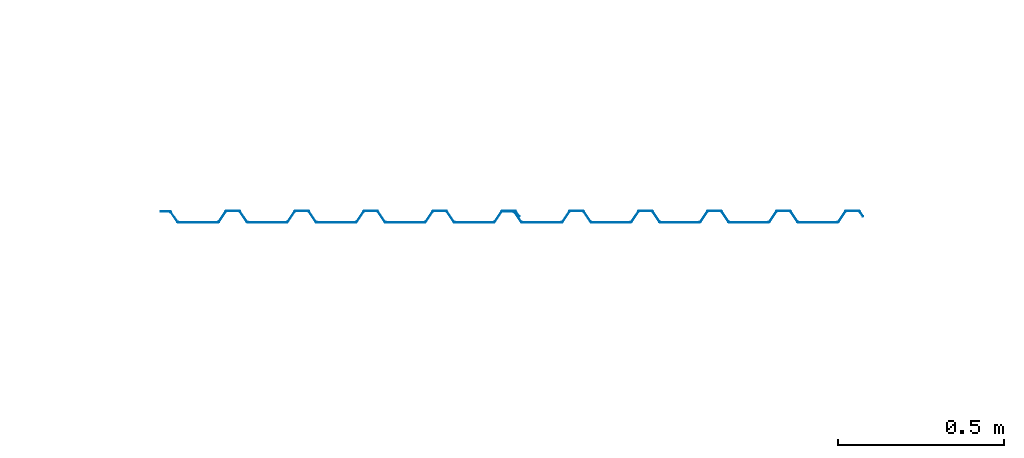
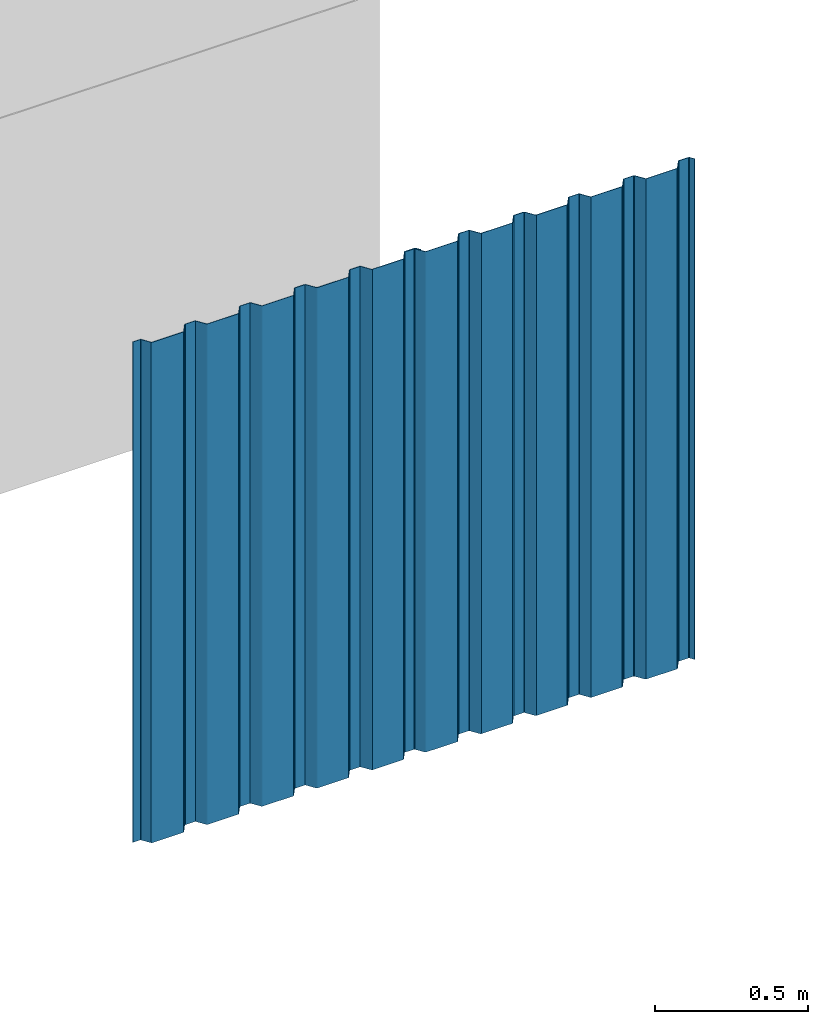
# One storey, part 2 of 11: 1 wall.
"""IFC2X3 building model written with IfcOpenShell, lengths in millimetres."""

from ifc_helpers import new_model, entity, si_unit, converted_unit, derived_unit, direction, frame, frame_2d, origin, place, context, subcontext, project, spatial, polyline, circle_curve, parameter, trimmed, segment, composite_curve, outline, extrude, type_object, element, save


model = new_model("IFC2X3")

# Units and contexts
model_context = context("Model", 3, precision=0.01, world=origin(), true_north=direction((6.12303176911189e-17, 1.0)))
body_context = subcontext(model_context, "Body", "Model", "MODEL_VIEW")
ifc_project = project(units=[si_unit("LENGTHUNIT", "METRE", prefix="MILLI"), si_unit("AREAUNIT", "SQUARE_METRE"), si_unit("VOLUMEUNIT", "CUBIC_METRE"), converted_unit("PLANEANGLEUNIT", "DEGREE", entity("IfcRatioMeasure", 0.0174532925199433), si_unit("PLANEANGLEUNIT", "RADIAN"), dimensions=[0, 0, 0, 0, 0, 0, 0]), si_unit("MASSUNIT", "GRAM", prefix="KILO"), si_unit("TIMEUNIT", "SECOND"), si_unit("FREQUENCYUNIT", "HERTZ"), si_unit("THERMODYNAMICTEMPERATUREUNIT", "KELVIN"), derived_unit("THERMALTRANSMITTANCEUNIT", [(si_unit("MASSUNIT", "GRAM", prefix="KILO"), 1), (si_unit("THERMODYNAMICTEMPERATUREUNIT", "KELVIN"), -1), (si_unit("TIMEUNIT", "SECOND"), -3)]), derived_unit("VOLUMETRICFLOWRATEUNIT", [(si_unit("LENGTHUNIT", "METRE"), 3), (si_unit("TIMEUNIT", "SECOND"), -1)]), si_unit("ELECTRICCURRENTUNIT", "AMPERE"), si_unit("ELECTRICVOLTAGEUNIT", "VOLT"), si_unit("POWERUNIT", "WATT")], contexts=[model_context])

# Site, building, storey
site_placement = place(None, origin())
site = spatial("IfcSite", under=ifc_project, at=site_placement, Name="Surface:5707", CompositionType="ELEMENT")
building_placement = place(site_placement, origin())
building = spatial("IfcBuilding", under=site, at=building_placement, CompositionType="ELEMENT")
storey_placement = place(building_placement, origin())
storey = spatial("IfcBuildingStorey", under=building, at=storey_placement, Name="00_begane grond", CompositionType="ELEMENT", Elevation=0.0)

# Wall
wall_type = type_object("IfcWallType", Name="Curtain Wall:21_CW_gevelbeplating_SAB35_1035:21_CW_gevelbeplating_SAB35_1035 : Curtain Wall:21_CW_gevelbeplating_SAB35_1035", PredefinedType="NOTDEFINED")
wall_placement = place(storey_placement, frame((11948.1162190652, -15000.1321325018, 0.0)))
element("IfcWall", 1, at=wall_placement, inside=storey, type_object=wall_type, Name="Curtain Wall:21_CW_gevelbeplating_SAB35_1035:21_CW_gevelbeplating_SAB35_1035 : Curtain Wall:21_CW_gevelbeplating_SAB35_1035:5924", ObjectType="Curtain Wall:21_CW_gevelbeplating_SAB35_1035:Curtain Wall:21_CW_gevelbeplating_SAB35_1035:5922", context=body_context, shape_type="SweptSolid", body=[
    extrude(outline(composite_curve([segment(trimmed(circle_curve(frame_2d((-498.845459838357, -13.5647563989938), x_axis=(1.0, 0.0)), 6.02142689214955), [parameter(214.438989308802)], [parameter(269.999999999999)], True, "PARAMETER"), True, "CONTINUOUS"), segment(polyline([(-498.845459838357, -19.5861832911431), (-383.335931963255, -19.5861832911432)]), True, "CONTINUOUS"), segment(trimmed(circle_curve(frame_2d((-383.335931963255, -13.5647563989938), x_axis=(1.0, 0.0)), 6.02142689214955), [parameter(269.999999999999)], [parameter(325.561010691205)], True, "PARAMETER"), True, "CONTINUOUS"), segment(polyline([(-378.369887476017, -16.9700440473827), (-357.27405332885, 13.7947140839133)]), True, "CONTINUOUS"), segment(trimmed(circle_curve(frame_2d((-353.963357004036, 11.5245223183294), x_axis=(1.0, 0.0)), 4.01428459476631), [parameter(90.0)], [parameter(145.561010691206)], True, "PARAMETER"), False, "CONTINUOUS"), segment(polyline([(-353.963357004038, 15.5388069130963), (-319.107378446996, 15.538806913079)]), True, "CONTINUOUS"), segment(trimmed(circle_curve(frame_2d((-319.107378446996, 11.5245223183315), x_axis=(1.0, 0.0)), 4.01428459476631), [parameter(34.4389893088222)], [parameter(90.0000000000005)], True, "PARAMETER"), False, "CONTINUOUS"), segment(polyline([(-315.796682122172, 13.7947140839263), (-294.700847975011, -16.970044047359)]), True, "CONTINUOUS"), segment(trimmed(circle_curve(frame_2d((-289.734803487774, -13.5647563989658), x_axis=(1.0, 0.0)), 6.02142689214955), [parameter(214.438989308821)], [parameter(270.0)], True, "PARAMETER"), True, "CONTINUOUS"), segment(polyline([(-289.734803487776, -19.5861832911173), (-175.596704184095, -19.5861832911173)]), True, "CONTINUOUS"), segment(trimmed(circle_curve(frame_2d((-175.596704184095, -13.5647563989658), x_axis=(1.0, 0.0)), 6.02142689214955), [parameter(270.0)], [parameter(325.5610106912)], True, "PARAMETER"), True, "CONTINUOUS"), segment(polyline([(-170.630659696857, -16.9700440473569), (-149.534825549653, 13.794714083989)]), True, "CONTINUOUS"), segment(trimmed(circle_curve(frame_2d((-146.224129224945, 11.5245223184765), x_axis=(1.0, 0.0)), 4.01428459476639), [parameter(90.0000000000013)], [parameter(145.561010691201)], True, "PARAMETER"), False, "CONTINUOUS"), segment(polyline([(-146.224129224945, 15.5388069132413), (-111.368150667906, 15.5388069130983)]), True, "CONTINUOUS"), segment(trimmed(circle_curve(frame_2d((-111.368150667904, 11.5245223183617), x_axis=(1.0, 0.0)), 4.01428459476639), [parameter(34.4389893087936)], [parameter(90.0000000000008)], True, "PARAMETER"), False, "CONTINUOUS"), segment(polyline([(-108.057454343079, 13.7947140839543), (-86.9616201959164, -16.9700440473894)]), True, "CONTINUOUS"), segment(trimmed(circle_curve(frame_2d((-81.9955757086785, -13.5647563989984), x_axis=(1.0, 0.0)), 6.02142689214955), [parameter(214.438989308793)], [parameter(270.0)], True, "PARAMETER"), True, "CONTINUOUS"), segment(polyline([(-81.9955757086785, -19.5861832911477), (32.142523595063, -19.5861832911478)]), True, "CONTINUOUS"), segment(trimmed(circle_curve(frame_2d((32.142523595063, -13.5647563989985), x_axis=(1.0, 0.0)), 6.02142689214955), [parameter(270.0)], [parameter(325.561010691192)], True, "PARAMETER"), True, "CONTINUOUS"), segment(polyline([(37.1085680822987, -16.9700440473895), (58.2044022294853, 13.7947140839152)]), True, "CONTINUOUS"), segment(trimmed(circle_curve(frame_2d((61.5150985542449, 11.5245223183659), x_axis=(1.0, 0.0)), 4.01428459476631), [parameter(90.0000000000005)], [parameter(145.561010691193)], True, "PARAMETER"), False, "CONTINUOUS"), segment(polyline([(61.5150985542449, 15.5388069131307), (96.3710771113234, 15.5388069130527)]), True, "CONTINUOUS"), segment(trimmed(circle_curve(frame_2d((96.3710771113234, 11.5245223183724), x_axis=(1.0, 0.0)), 4.01428459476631), [parameter(34.4389893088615)], [parameter(90.0000000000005)], True, "PARAMETER"), False, "CONTINUOUS"), segment(polyline([(99.6817734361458, 13.7947140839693), (120.777607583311, -16.9700440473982)]), True, "CONTINUOUS"), segment(trimmed(circle_curve(frame_2d((125.743652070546, -13.5647563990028), x_axis=(1.0, 0.0)), 6.02142689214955), [parameter(214.438989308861)], [parameter(270.0)], True, "PARAMETER"), True, "CONTINUOUS"), segment(polyline([(125.743652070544, -19.5861832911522), (239.881751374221, -19.5861832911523)]), True, "CONTINUOUS"), segment(trimmed(circle_curve(frame_2d((239.881751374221, -13.5647563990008), x_axis=(1.0, 0.0)), 6.02142689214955), [parameter(270.0)], [parameter(325.561010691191)], True, "PARAMETER"), True, "CONTINUOUS"), segment(polyline([(244.847795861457, -16.9700440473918), (265.943630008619, 13.7947140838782)]), True, "CONTINUOUS"), segment(trimmed(circle_curve(frame_2d((269.254326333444, 11.5245223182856), x_axis=(1.0, 0.0)), 4.01428459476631), [parameter(90.0)], [parameter(145.561010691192)], True, "PARAMETER"), False, "CONTINUOUS"), segment(polyline([(269.254326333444, 15.5388069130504), (304.110304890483, 15.5388069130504)]), True, "CONTINUOUS"), segment(trimmed(circle_curve(frame_2d((304.110304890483, 11.5245223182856), x_axis=(1.0, 0.0)), 4.01428459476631), [parameter(34.4389893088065)], [parameter(90.0)], True, "PARAMETER"), False, "CONTINUOUS"), segment(polyline([(307.421001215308, 13.7947140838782), (328.516835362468, -16.970044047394)]), True, "CONTINUOUS"), segment(trimmed(circle_curve(frame_2d((333.482879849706, -13.564756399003), x_axis=(1.0, 0.0)), 6.02142689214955), [parameter(214.438989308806)], [parameter(269.999999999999)], True, "PARAMETER"), True, "CONTINUOUS"), segment(polyline([(333.482879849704, -19.5861832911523), (447.620979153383, -19.5861832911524)]), True, "CONTINUOUS"), segment(trimmed(circle_curve(frame_2d((447.620979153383, -13.5647563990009), x_axis=(1.0, 0.0)), 6.02142689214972), [parameter(269.999999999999)], [parameter(325.561010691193)], True, "PARAMETER"), True, "CONTINUOUS"), segment(polyline([(452.587023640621, -16.970044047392), (473.682857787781, 13.7947140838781)]), True, "CONTINUOUS"), segment(trimmed(circle_curve(frame_2d((476.993554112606, 11.5245223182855), x_axis=(1.0, 0.0)), 4.01428459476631), [parameter(90.000000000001)], [parameter(145.561010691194)], True, "PARAMETER"), False, "CONTINUOUS"), segment(polyline([(476.993554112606, 15.5388069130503), (511.849532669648, 15.5388069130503)]), True, "CONTINUOUS"), segment(trimmed(circle_curve(frame_2d((511.849532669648, 11.5245223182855), x_axis=(1.0, 0.0)), 4.01428459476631), [parameter(34.4389893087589)], [parameter(90.0)], True, "PARAMETER"), False, "CONTINUOUS"), segment(polyline([(515.160228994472, 13.7947140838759), (525.449096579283, -1.20988447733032)]), True, "CONTINUOUS"), segment(polyline([(525.449096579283, -1.20988447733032), (527.104444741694, -0.0747885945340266)]), True, "CONTINUOUS"), segment(polyline([(527.104444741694, -0.0747885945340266), (516.815577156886, 14.9298099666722)]), True, "CONTINUOUS"), segment(trimmed(circle_curve(frame_2d((511.849532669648, 11.5245223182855), x_axis=(1.0, 0.0)), 6.02142689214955), [parameter(34.4389893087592)], [parameter(90.0)], True, "PARAMETER"), True, "CONTINUOUS"), segment(polyline([(511.849532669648, 17.5459492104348), (476.993554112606, 17.5459492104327)]), True, "CONTINUOUS"), segment(trimmed(circle_curve(frame_2d((476.993554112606, 11.5245223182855), x_axis=(1.0, 0.0)), 6.02142689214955), [parameter(89.9999999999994)], [parameter(145.561010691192)], True, "PARAMETER"), True, "CONTINUOUS"), segment(polyline([(472.02750962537, 14.9298099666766), (450.931675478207, -15.8349481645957)]), True, "CONTINUOUS"), segment(trimmed(circle_curve(frame_2d((447.620979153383, -13.5647563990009), x_axis=(1.0, 0.0)), 4.01428459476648), [parameter(270.0)], [parameter(325.561010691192)], True, "PARAMETER"), False, "CONTINUOUS"), segment(polyline([(447.620979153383, -17.5790409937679), (333.482879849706, -17.5790409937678)]), True, "CONTINUOUS"), segment(trimmed(circle_curve(frame_2d((333.482879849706, -13.564756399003), x_axis=(1.0, 0.0)), 4.01428459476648), [parameter(214.438989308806)], [parameter(270.0)], True, "PARAMETER"), False, "CONTINUOUS"), segment(polyline([(330.17218352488, -15.8349481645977), (309.076349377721, 14.9298099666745)]), True, "CONTINUOUS"), segment(trimmed(circle_curve(frame_2d((304.110304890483, 11.5245223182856), x_axis=(1.0, 0.0)), 6.02142689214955), [parameter(34.4389893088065)], [parameter(90.0)], True, "PARAMETER"), True, "CONTINUOUS"), segment(polyline([(304.110304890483, 17.5459492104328), (269.254326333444, 17.545949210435)]), True, "CONTINUOUS"), segment(trimmed(circle_curve(frame_2d((269.254326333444, 11.5245223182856), x_axis=(1.0, 0.0)), 6.02142689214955), [parameter(90.0)], [parameter(145.561010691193)], True, "PARAMETER"), True, "CONTINUOUS"), segment(polyline([(264.288281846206, 14.9298099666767), (243.192447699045, -15.8349481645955)]), True, "CONTINUOUS"), segment(trimmed(circle_curve(frame_2d((239.881751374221, -13.5647563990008), x_axis=(1.0, 0.0)), 4.01428459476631), [parameter(270.0)], [parameter(325.561010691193)], True, "PARAMETER"), False, "CONTINUOUS"), segment(polyline([(239.881751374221, -17.5790409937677), (125.743652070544, -17.5790409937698)]), True, "CONTINUOUS"), segment(trimmed(circle_curve(frame_2d((125.743652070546, -13.5647563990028), x_axis=(1.0, 0.0)), 4.01428459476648), [parameter(214.438989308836)], [parameter(270.0)], True, "PARAMETER"), False, "CONTINUOUS"), segment(polyline([(122.432955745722, -15.8349481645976), (101.337121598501, 14.9298099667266)]), True, "CONTINUOUS"), segment(trimmed(circle_curve(frame_2d((96.3710771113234, 11.5245223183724), x_axis=(1.0, 0.0)), 6.02142689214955), [parameter(34.4389893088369)], [parameter(90.0000000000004)], True, "PARAMETER"), True, "CONTINUOUS"), segment(polyline([(96.3710771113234, 17.5459492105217), (61.5150985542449, 17.5459492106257)]), True, "CONTINUOUS"), segment(trimmed(circle_curve(frame_2d((61.5150985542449, 11.5245223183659), x_axis=(1.0, 0.0)), 6.02142689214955), [parameter(89.9999999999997)], [parameter(145.561010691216)], True, "PARAMETER"), True, "CONTINUOUS"), segment(polyline([(56.549054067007, 14.9298099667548), (35.4532199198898, -15.8349481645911)]), True, "CONTINUOUS"), segment(trimmed(circle_curve(frame_2d((32.142523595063, -13.5647563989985), x_axis=(1.0, 0.0)), 4.01428459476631), [parameter(269.999999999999)], [parameter(325.561010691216)], True, "PARAMETER"), False, "CONTINUOUS"), segment(polyline([(32.142523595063, -17.5790409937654), (-81.9955757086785, -17.5790409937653)]), True, "CONTINUOUS"), segment(trimmed(circle_curve(frame_2d((-81.9955757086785, -13.5647563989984), x_axis=(1.0, 0.0)), 4.01428459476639), [parameter(214.438989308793)], [parameter(270.0)], True, "PARAMETER"), False, "CONTINUOUS"), segment(polyline([(-85.306272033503, -15.8349481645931), (-106.402106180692, 14.9298099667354)]), True, "CONTINUOUS"), segment(trimmed(circle_curve(frame_2d((-111.368150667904, 11.5245223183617), x_axis=(1.0, 0.0)), 6.02142689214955), [parameter(34.4389893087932)], [parameter(89.9999999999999)], True, "PARAMETER"), True, "CONTINUOUS"), segment(polyline([(-111.368150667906, 17.545949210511), (-146.224129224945, 17.5459492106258)]), True, "CONTINUOUS"), segment(trimmed(circle_curve(frame_2d((-146.224129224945, 11.5245223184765), x_axis=(1.0, 0.0)), 6.02142689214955), [parameter(90.0000000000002)], [parameter(145.561010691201)], True, "PARAMETER"), True, "CONTINUOUS"), segment(polyline([(-151.190173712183, 14.9298099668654), (-172.28600785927, -15.8349481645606)]), True, "CONTINUOUS"), segment(trimmed(circle_curve(frame_2d((-175.596704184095, -13.5647563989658), x_axis=(1.0, 0.0)), 4.01428459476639), [parameter(269.999999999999)], [parameter(325.5610106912)], True, "PARAMETER"), False, "CONTINUOUS"), segment(polyline([(-175.596704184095, -17.5790409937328), (-289.734803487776, -17.5790409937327)]), True, "CONTINUOUS"), segment(trimmed(circle_curve(frame_2d((-289.734803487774, -13.5647563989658), x_axis=(1.0, 0.0)), 4.01428459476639), [parameter(214.438989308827)], [parameter(269.999999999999)], True, "PARAMETER"), False, "CONTINUOUS"), segment(polyline([(-293.045499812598, -15.8349481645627), (-314.141333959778, 14.9298099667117)]), True, "CONTINUOUS"), segment(trimmed(circle_curve(frame_2d((-319.107378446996, 11.5245223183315), x_axis=(1.0, 0.0)), 6.02142689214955), [parameter(34.4389893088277)], [parameter(90.0)], True, "PARAMETER"), True, "CONTINUOUS"), segment(polyline([(-319.107378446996, 17.5459492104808), (-353.963357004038, 17.5459492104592)]), True, "CONTINUOUS"), segment(trimmed(circle_curve(frame_2d((-353.963357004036, 11.5245223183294), x_axis=(1.0, 0.0)), 6.02142689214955), [parameter(90.0)], [parameter(145.561010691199)], True, "PARAMETER"), True, "CONTINUOUS"), segment(polyline([(-358.929401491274, 14.9298099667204), (-380.02523563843, -15.8349481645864)]), True, "CONTINUOUS"), segment(trimmed(circle_curve(frame_2d((-383.335931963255, -13.5647563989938), x_axis=(1.0, 0.0)), 4.01428459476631), [parameter(270.0)], [parameter(325.561010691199)], True, "PARAMETER"), False, "CONTINUOUS"), segment(polyline([(-383.335931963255, -17.5790409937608), (-498.845459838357, -17.5790409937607)]), True, "CONTINUOUS"), segment(trimmed(circle_curve(frame_2d((-498.845459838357, -13.5647563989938), x_axis=(1.0, 0.0)), 4.01428459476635), [parameter(214.438989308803)], [parameter(270.0)], True, "PARAMETER"), False, "CONTINUOUS"), segment(polyline([(-502.156156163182, -15.8349481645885), (-521.880561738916, 12.9298099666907)]), True, "CONTINUOUS"), segment(trimmed(circle_curve(frame_2d((-526.846606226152, 9.52452231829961), x_axis=(1.0, 0.0)), 6.02142689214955), [parameter(34.438989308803)], [parameter(89.9999999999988)], True, "PARAMETER"), True, "CONTINUOUS"), segment(polyline([(-526.846606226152, 15.545949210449), (-554.310306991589, 15.5459492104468)]), True, "CONTINUOUS"), segment(polyline([(-554.310306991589, 15.5459492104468), (-554.310306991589, 13.5388069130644)]), True, "CONTINUOUS"), segment(polyline([(-554.310306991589, 13.5388069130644), (-526.846606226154, 13.5388069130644)]), True, "CONTINUOUS"), segment(trimmed(circle_curve(frame_2d((-526.846606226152, 9.52452231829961), x_axis=(1.0, 0.0)), 4.01428459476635), [parameter(34.4389893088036)], [parameter(89.9999999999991)], True, "PARAMETER"), False, "CONTINUOUS"), segment(polyline([(-523.535909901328, 11.7947140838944), (-503.811504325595, -16.9700440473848)]), True, "CONTINUOUS")], self_intersect=False)), frame((554.310306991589, 19.5861832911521, 0.0)), (0.0, 0.0, 1.0), 2000.0),
    extrude(outline(composite_curve([segment(trimmed(circle_curve(frame_2d((-498.845459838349, -13.5647563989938), x_axis=(1.0, 0.0)), 6.02142689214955), [parameter(214.438989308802)], [parameter(269.999999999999)], True, "PARAMETER"), True, "CONTINUOUS"), segment(polyline([(-498.845459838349, -19.5861832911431), (-383.335931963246, -19.5861832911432)]), True, "CONTINUOUS"), segment(trimmed(circle_curve(frame_2d((-383.335931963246, -13.5647563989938), x_axis=(1.0, 0.0)), 6.02142689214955), [parameter(269.999999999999)], [parameter(325.561010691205)], True, "PARAMETER"), True, "CONTINUOUS"), segment(polyline([(-378.369887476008, -16.9700440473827), (-357.274053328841, 13.7947140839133)]), True, "CONTINUOUS"), segment(trimmed(circle_curve(frame_2d((-353.963357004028, 11.5245223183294), x_axis=(1.0, 0.0)), 4.01428459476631), [parameter(90.0)], [parameter(145.561010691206)], True, "PARAMETER"), False, "CONTINUOUS"), segment(polyline([(-353.96335700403, 15.5388069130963), (-319.107378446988, 15.538806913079)]), True, "CONTINUOUS"), segment(trimmed(circle_curve(frame_2d((-319.107378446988, 11.5245223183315), x_axis=(1.0, 0.0)), 4.01428459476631), [parameter(34.4389893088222)], [parameter(90.0000000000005)], True, "PARAMETER"), False, "CONTINUOUS"), segment(polyline([(-315.796682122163, 13.7947140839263), (-294.700847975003, -16.970044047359)]), True, "CONTINUOUS"), segment(trimmed(circle_curve(frame_2d((-289.734803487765, -13.5647563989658), x_axis=(1.0, 0.0)), 6.02142689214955), [parameter(214.438989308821)], [parameter(270.0)], True, "PARAMETER"), True, "CONTINUOUS"), segment(polyline([(-289.734803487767, -19.5861832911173), (-175.596704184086, -19.5861832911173)]), True, "CONTINUOUS"), segment(trimmed(circle_curve(frame_2d((-175.596704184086, -13.5647563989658), x_axis=(1.0, 0.0)), 6.02142689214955), [parameter(270.0)], [parameter(325.5610106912)], True, "PARAMETER"), True, "CONTINUOUS"), segment(polyline([(-170.630659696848, -16.9700440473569), (-149.534825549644, 13.794714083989)]), True, "CONTINUOUS"), segment(trimmed(circle_curve(frame_2d((-146.224129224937, 11.5245223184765), x_axis=(1.0, 0.0)), 4.01428459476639), [parameter(90.0000000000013)], [parameter(145.561010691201)], True, "PARAMETER"), False, "CONTINUOUS"), segment(polyline([(-146.224129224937, 15.5388069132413), (-111.368150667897, 15.5388069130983)]), True, "CONTINUOUS"), segment(trimmed(circle_curve(frame_2d((-111.368150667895, 11.5245223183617), x_axis=(1.0, 0.0)), 4.01428459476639), [parameter(34.4389893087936)], [parameter(90.0000000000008)], True, "PARAMETER"), False, "CONTINUOUS"), segment(polyline([(-108.05745434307, 13.7947140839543), (-86.9616201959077, -16.9700440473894)]), True, "CONTINUOUS"), segment(trimmed(circle_curve(frame_2d((-81.99557570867, -13.5647563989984), x_axis=(1.0, 0.0)), 6.02142689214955), [parameter(214.438989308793)], [parameter(270.0)], True, "PARAMETER"), True, "CONTINUOUS"), segment(polyline([(-81.99557570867, -19.5861832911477), (32.1425235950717, -19.5861832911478)]), True, "CONTINUOUS"), segment(trimmed(circle_curve(frame_2d((32.1425235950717, -13.5647563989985), x_axis=(1.0, 0.0)), 6.02142689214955), [parameter(270.0)], [parameter(325.561010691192)], True, "PARAMETER"), True, "CONTINUOUS"), segment(polyline([(37.1085680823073, -16.9700440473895), (58.204402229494, 13.7947140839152)]), True, "CONTINUOUS"), segment(trimmed(circle_curve(frame_2d((61.5150985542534, 11.5245223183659), x_axis=(1.0, 0.0)), 4.01428459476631), [parameter(90.0000000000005)], [parameter(145.561010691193)], True, "PARAMETER"), False, "CONTINUOUS"), segment(polyline([(61.5150985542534, 15.5388069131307), (96.371077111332, 15.5388069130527)]), True, "CONTINUOUS"), segment(trimmed(circle_curve(frame_2d((96.371077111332, 11.5245223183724), x_axis=(1.0, 0.0)), 4.01428459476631), [parameter(34.4389893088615)], [parameter(90.0000000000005)], True, "PARAMETER"), False, "CONTINUOUS"), segment(polyline([(99.6817734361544, 13.7947140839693), (120.777607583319, -16.9700440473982)]), True, "CONTINUOUS"), segment(trimmed(circle_curve(frame_2d((125.743652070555, -13.5647563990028), x_axis=(1.0, 0.0)), 6.02142689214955), [parameter(214.438989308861)], [parameter(270.0)], True, "PARAMETER"), True, "CONTINUOUS"), segment(polyline([(125.743652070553, -19.5861832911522), (239.881751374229, -19.5861832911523)]), True, "CONTINUOUS"), segment(trimmed(circle_curve(frame_2d((239.881751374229, -13.5647563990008), x_axis=(1.0, 0.0)), 6.02142689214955), [parameter(270.0)], [parameter(325.561010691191)], True, "PARAMETER"), True, "CONTINUOUS"), segment(polyline([(244.847795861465, -16.9700440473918), (265.943630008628, 13.7947140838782)]), True, "CONTINUOUS"), segment(trimmed(circle_curve(frame_2d((269.254326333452, 11.5245223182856), x_axis=(1.0, 0.0)), 4.01428459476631), [parameter(90.0)], [parameter(145.561010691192)], True, "PARAMETER"), False, "CONTINUOUS"), segment(polyline([(269.254326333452, 15.5388069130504), (304.110304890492, 15.5388069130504)]), True, "CONTINUOUS"), segment(trimmed(circle_curve(frame_2d((304.110304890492, 11.5245223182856), x_axis=(1.0, 0.0)), 4.01428459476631), [parameter(34.4389893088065)], [parameter(90.0)], True, "PARAMETER"), False, "CONTINUOUS"), segment(polyline([(307.421001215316, 13.7947140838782), (328.516835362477, -16.970044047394)]), True, "CONTINUOUS"), segment(trimmed(circle_curve(frame_2d((333.482879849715, -13.564756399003), x_axis=(1.0, 0.0)), 6.02142689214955), [parameter(214.438989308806)], [parameter(269.999999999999)], True, "PARAMETER"), True, "CONTINUOUS"), segment(polyline([(333.482879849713, -19.5861832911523), (447.620979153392, -19.5861832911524)]), True, "CONTINUOUS"), segment(trimmed(circle_curve(frame_2d((447.620979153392, -13.5647563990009), x_axis=(1.0, 0.0)), 6.02142689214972), [parameter(269.999999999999)], [parameter(325.561010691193)], True, "PARAMETER"), True, "CONTINUOUS"), segment(polyline([(452.587023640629, -16.970044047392), (473.68285778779, 13.7947140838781)]), True, "CONTINUOUS"), segment(trimmed(circle_curve(frame_2d((476.993554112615, 11.5245223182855), x_axis=(1.0, 0.0)), 4.01428459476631), [parameter(90.000000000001)], [parameter(145.561010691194)], True, "PARAMETER"), False, "CONTINUOUS"), segment(polyline([(476.993554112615, 15.5388069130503), (511.849532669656, 15.5388069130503)]), True, "CONTINUOUS"), segment(trimmed(circle_curve(frame_2d((511.849532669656, 11.5245223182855), x_axis=(1.0, 0.0)), 4.01428459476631), [parameter(34.4389893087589)], [parameter(90.0)], True, "PARAMETER"), False, "CONTINUOUS"), segment(polyline([(515.160228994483, 13.7947140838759), (525.449096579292, -1.20988447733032)]), True, "CONTINUOUS"), segment(polyline([(525.449096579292, -1.20988447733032), (527.104444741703, -0.0747885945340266)]), True, "CONTINUOUS"), segment(polyline([(527.104444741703, -0.0747885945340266), (516.815577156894, 14.9298099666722)]), True, "CONTINUOUS"), segment(trimmed(circle_curve(frame_2d((511.849532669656, 11.5245223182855), x_axis=(1.0, 0.0)), 6.02142689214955), [parameter(34.4389893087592)], [parameter(90.0)], True, "PARAMETER"), True, "CONTINUOUS"), segment(polyline([(511.849532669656, 17.5459492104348), (476.993554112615, 17.5459492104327)]), True, "CONTINUOUS"), segment(trimmed(circle_curve(frame_2d((476.993554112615, 11.5245223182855), x_axis=(1.0, 0.0)), 6.02142689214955), [parameter(89.9999999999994)], [parameter(145.561010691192)], True, "PARAMETER"), True, "CONTINUOUS"), segment(polyline([(472.027509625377, 14.9298099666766), (450.931675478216, -15.8349481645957)]), True, "CONTINUOUS"), segment(trimmed(circle_curve(frame_2d((447.620979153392, -13.5647563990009), x_axis=(1.0, 0.0)), 4.01428459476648), [parameter(270.0)], [parameter(325.561010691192)], True, "PARAMETER"), False, "CONTINUOUS"), segment(polyline([(447.620979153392, -17.5790409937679), (333.482879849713, -17.5790409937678)]), True, "CONTINUOUS"), segment(trimmed(circle_curve(frame_2d((333.482879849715, -13.564756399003), x_axis=(1.0, 0.0)), 4.01428459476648), [parameter(214.438989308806)], [parameter(270.0)], True, "PARAMETER"), False, "CONTINUOUS"), segment(polyline([(330.172183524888, -15.8349481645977), (309.07634937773, 14.9298099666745)]), True, "CONTINUOUS"), segment(trimmed(circle_curve(frame_2d((304.110304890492, 11.5245223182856), x_axis=(1.0, 0.0)), 6.02142689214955), [parameter(34.4389893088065)], [parameter(90.0)], True, "PARAMETER"), True, "CONTINUOUS"), segment(polyline([(304.110304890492, 17.5459492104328), (269.254326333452, 17.545949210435)]), True, "CONTINUOUS"), segment(trimmed(circle_curve(frame_2d((269.254326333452, 11.5245223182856), x_axis=(1.0, 0.0)), 6.02142689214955), [parameter(90.0)], [parameter(145.561010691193)], True, "PARAMETER"), True, "CONTINUOUS"), segment(polyline([(264.288281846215, 14.9298099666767), (243.192447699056, -15.8349481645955)]), True, "CONTINUOUS"), segment(trimmed(circle_curve(frame_2d((239.881751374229, -13.5647563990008), x_axis=(1.0, 0.0)), 4.01428459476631), [parameter(270.0)], [parameter(325.561010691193)], True, "PARAMETER"), False, "CONTINUOUS"), segment(polyline([(239.881751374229, -17.5790409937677), (125.743652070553, -17.5790409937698)]), True, "CONTINUOUS"), segment(trimmed(circle_curve(frame_2d((125.743652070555, -13.5647563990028), x_axis=(1.0, 0.0)), 4.01428459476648), [parameter(214.438989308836)], [parameter(270.0)], True, "PARAMETER"), False, "CONTINUOUS"), segment(polyline([(122.43295574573, -15.8349481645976), (101.337121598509, 14.9298099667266)]), True, "CONTINUOUS"), segment(trimmed(circle_curve(frame_2d((96.371077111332, 11.5245223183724), x_axis=(1.0, 0.0)), 6.02142689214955), [parameter(34.4389893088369)], [parameter(90.0000000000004)], True, "PARAMETER"), True, "CONTINUOUS"), segment(polyline([(96.371077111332, 17.5459492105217), (61.5150985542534, 17.5459492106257)]), True, "CONTINUOUS"), segment(trimmed(circle_curve(frame_2d((61.5150985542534, 11.5245223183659), x_axis=(1.0, 0.0)), 6.02142689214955), [parameter(89.9999999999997)], [parameter(145.561010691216)], True, "PARAMETER"), True, "CONTINUOUS"), segment(polyline([(56.5490540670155, 14.9298099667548), (35.4532199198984, -15.8349481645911)]), True, "CONTINUOUS"), segment(trimmed(circle_curve(frame_2d((32.1425235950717, -13.5647563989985), x_axis=(1.0, 0.0)), 4.01428459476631), [parameter(269.999999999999)], [parameter(325.561010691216)], True, "PARAMETER"), False, "CONTINUOUS"), segment(polyline([(32.1425235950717, -17.5790409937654), (-81.99557570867, -17.5790409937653)]), True, "CONTINUOUS"), segment(trimmed(circle_curve(frame_2d((-81.99557570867, -13.5647563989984), x_axis=(1.0, 0.0)), 4.01428459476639), [parameter(214.438989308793)], [parameter(270.0)], True, "PARAMETER"), False, "CONTINUOUS"), segment(polyline([(-85.3062720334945, -15.8349481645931), (-106.402106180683, 14.9298099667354)]), True, "CONTINUOUS"), segment(trimmed(circle_curve(frame_2d((-111.368150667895, 11.5245223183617), x_axis=(1.0, 0.0)), 6.02142689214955), [parameter(34.4389893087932)], [parameter(89.9999999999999)], True, "PARAMETER"), True, "CONTINUOUS"), segment(polyline([(-111.368150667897, 17.545949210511), (-146.224129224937, 17.5459492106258)]), True, "CONTINUOUS"), segment(trimmed(circle_curve(frame_2d((-146.224129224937, 11.5245223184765), x_axis=(1.0, 0.0)), 6.02142689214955), [parameter(90.0000000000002)], [parameter(145.561010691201)], True, "PARAMETER"), True, "CONTINUOUS"), segment(polyline([(-151.190173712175, 14.9298099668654), (-172.286007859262, -15.8349481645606)]), True, "CONTINUOUS"), segment(trimmed(circle_curve(frame_2d((-175.596704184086, -13.5647563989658), x_axis=(1.0, 0.0)), 4.01428459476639), [parameter(269.999999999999)], [parameter(325.5610106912)], True, "PARAMETER"), False, "CONTINUOUS"), segment(polyline([(-175.596704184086, -17.5790409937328), (-289.734803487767, -17.5790409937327)]), True, "CONTINUOUS"), segment(trimmed(circle_curve(frame_2d((-289.734803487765, -13.5647563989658), x_axis=(1.0, 0.0)), 4.01428459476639), [parameter(214.438989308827)], [parameter(269.999999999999)], True, "PARAMETER"), False, "CONTINUOUS"), segment(polyline([(-293.045499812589, -15.8349481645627), (-314.14133395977, 14.9298099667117)]), True, "CONTINUOUS"), segment(trimmed(circle_curve(frame_2d((-319.107378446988, 11.5245223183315), x_axis=(1.0, 0.0)), 6.02142689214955), [parameter(34.4389893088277)], [parameter(90.0)], True, "PARAMETER"), True, "CONTINUOUS"), segment(polyline([(-319.107378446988, 17.5459492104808), (-353.96335700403, 17.5459492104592)]), True, "CONTINUOUS"), segment(trimmed(circle_curve(frame_2d((-353.963357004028, 11.5245223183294), x_axis=(1.0, 0.0)), 6.02142689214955), [parameter(90.0)], [parameter(145.561010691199)], True, "PARAMETER"), True, "CONTINUOUS"), segment(polyline([(-358.929401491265, 14.9298099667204), (-380.025235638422, -15.8349481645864)]), True, "CONTINUOUS"), segment(trimmed(circle_curve(frame_2d((-383.335931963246, -13.5647563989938), x_axis=(1.0, 0.0)), 4.01428459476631), [parameter(270.0)], [parameter(325.561010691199)], True, "PARAMETER"), False, "CONTINUOUS"), segment(polyline([(-383.335931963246, -17.5790409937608), (-498.845459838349, -17.5790409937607)]), True, "CONTINUOUS"), segment(trimmed(circle_curve(frame_2d((-498.845459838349, -13.5647563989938), x_axis=(1.0, 0.0)), 4.01428459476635), [parameter(214.438989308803)], [parameter(270.0)], True, "PARAMETER"), False, "CONTINUOUS"), segment(polyline([(-502.156156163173, -15.8349481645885), (-521.880561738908, 12.9298099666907)]), True, "CONTINUOUS"), segment(trimmed(circle_curve(frame_2d((-526.846606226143, 9.52452231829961), x_axis=(1.0, 0.0)), 6.02142689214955), [parameter(34.438989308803)], [parameter(89.9999999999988)], True, "PARAMETER"), True, "CONTINUOUS"), segment(polyline([(-526.846606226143, 15.545949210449), (-554.310306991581, 15.5459492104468)]), True, "CONTINUOUS"), segment(polyline([(-554.310306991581, 15.5459492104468), (-554.310306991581, 13.5388069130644)]), True, "CONTINUOUS"), segment(polyline([(-554.310306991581, 13.5388069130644), (-526.846606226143, 13.5388069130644)]), True, "CONTINUOUS"), segment(trimmed(circle_curve(frame_2d((-526.846606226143, 9.52452231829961), x_axis=(1.0, 0.0)), 4.01428459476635), [parameter(34.4389893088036)], [parameter(89.9999999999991)], True, "PARAMETER"), False, "CONTINUOUS"), segment(polyline([(-523.535909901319, 11.7947140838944), (-503.811504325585, -16.9700440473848)]), True, "CONTINUOUS")], self_intersect=False)), frame((1589.31030699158, 19.5861832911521, 0.0)), (0.0, 0.0, 1.0), 2000.0),
])

save(model, "model.ifc")
